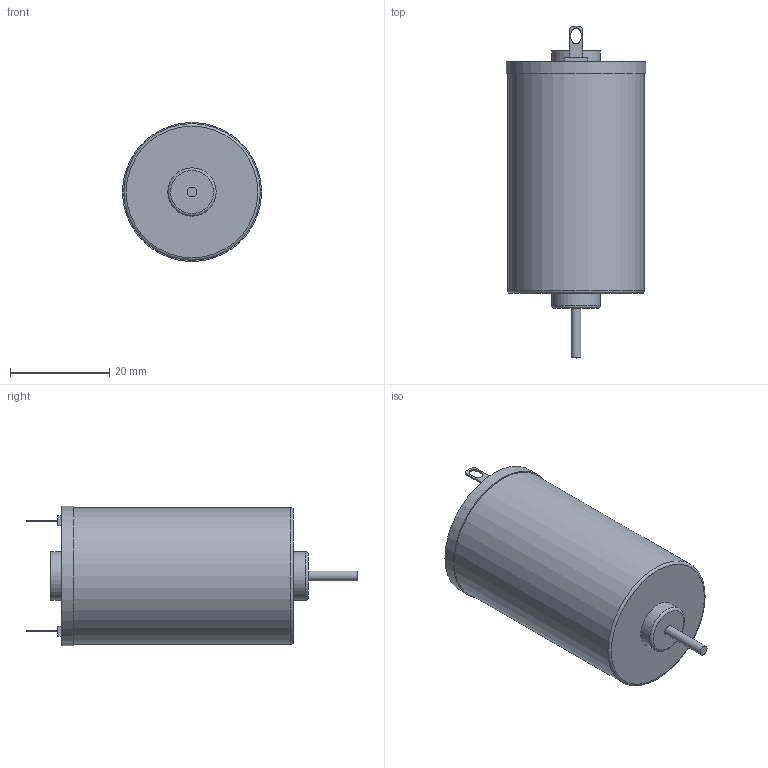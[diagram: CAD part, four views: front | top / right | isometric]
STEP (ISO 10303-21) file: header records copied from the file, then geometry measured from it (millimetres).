
FILE_DESCRIPTION(/* description */ ('STEP AP242 Edition 2','CAx-IF Rec.Pracs.---Representation and Presentation of Product Manufacturing Information (PMI)---4.0---2014-10-13','CAx-IF Rec.Pracs.---3D Tessellated Geometry---0.4---2014-09-14','2;1','CAx-IF Rec.Pracs.---User Defined Attributes---1.5---2016-08-15'),/* implementation_level */ '2;1');
FILE_NAME(/* name */ '695afed6d13f1a023388941b',/* time_stamp */ '2026-01-04T23:59:18Z',/* author */ (''),/* organization */ (''),/* preprocessor_version */ 'ST-DEVELOPER v20',/* originating_system */ 'ONSHAPE BY PTC INC, 1.208',/* authorisation */ ' ');
FILE_SCHEMA (('AP242_MANAGED_MODEL_BASED_3D_ENGINEERING_MIM_LF { 1 0 10303 442 3 1 4 }'));
Length unit declared in the file: metre
Products named in the file (7): JYCRS390H v4; motor
Assembly tree (6 placements, depth 2):
  JYCRS390H v4
    motor
    motor
    motor
    motor
    motor
    motor
Bounding box: 28 x 66.8 x 28 mm (x, y, z)
Volume: 27744 mm3; surface area: 5762.8 mm2
Topology: 6 solids, 6 shells, 52 faces, 99 edges, 66 vertices
Faces by surface type: plane 39, cylinder 9, torus 2, bspline 2
Full cylindrical faces by diameter (mm): 2 x2, 8.4 x1, 9.7 x1, 9.8 x1, 19.3 x1, 27.5 x1, 27.6 x1, 28 x1
Entity records: 1476 total; most frequent: CARTESIAN_POINT 281, DIRECTION 222, ORIENTED_EDGE 168, EDGE_CURVE 84, AXIS2_PLACEMENT_3D 81, EDGE_LOOP 76, FACE_BOUND 76, VERTEX_POINT 64
